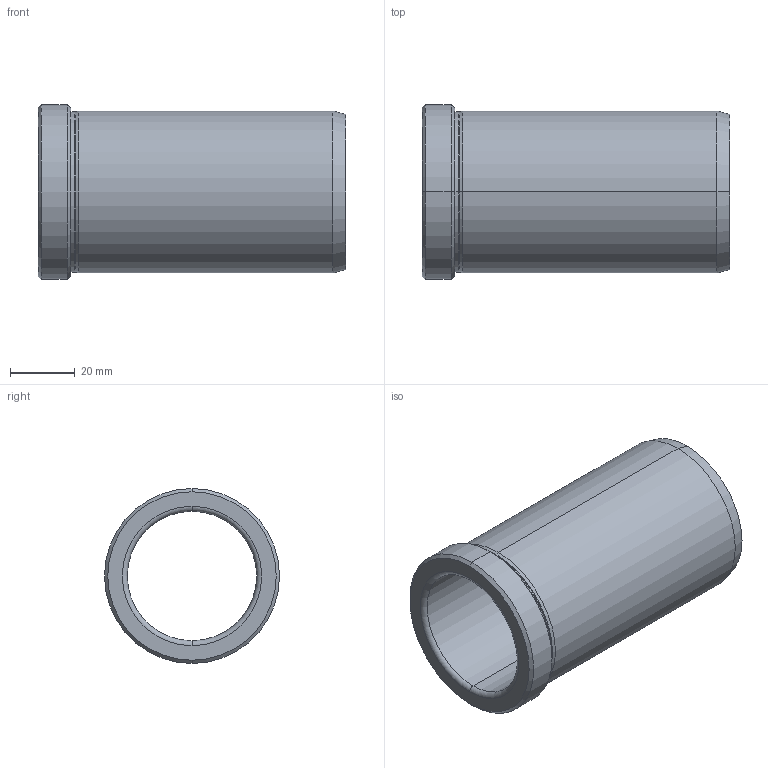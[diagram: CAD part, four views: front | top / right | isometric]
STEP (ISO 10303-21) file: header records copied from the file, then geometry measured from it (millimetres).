
FILE_DESCRIPTION (( 'STEP AP214' ), '1' );
FILE_NAME ('BRCVBG-40x95.STEP', '2020-07-21T12:39:28', ( '' ), ( '' ), 'SwSTEP 2.0', 'SolidWorks 2018', '' );
FILE_SCHEMA (( 'AUTOMOTIVE_DESIGN' ));
Length unit declared in the file: millimetre
Products named in the file (1): BRCVBG-40x95
Bounding box: 95 x 54 x 54 mm (x, y, z)
Volume: 70114 mm3; surface area: 28569.5 mm2
Topology: 1 solids, 1 shells, 30 faces, 60 edges, 34 vertices
Faces by surface type: cylinder 10, cone 8, torus 8, plane 4
Entity records: 820 total; most frequent: DIRECTION 164, CARTESIAN_POINT 125, ORIENTED_EDGE 120, AXIS2_PLACEMENT_3D 73, EDGE_CURVE 60, CIRCLE 42, EDGE_LOOP 34, VERTEX_POINT 34
